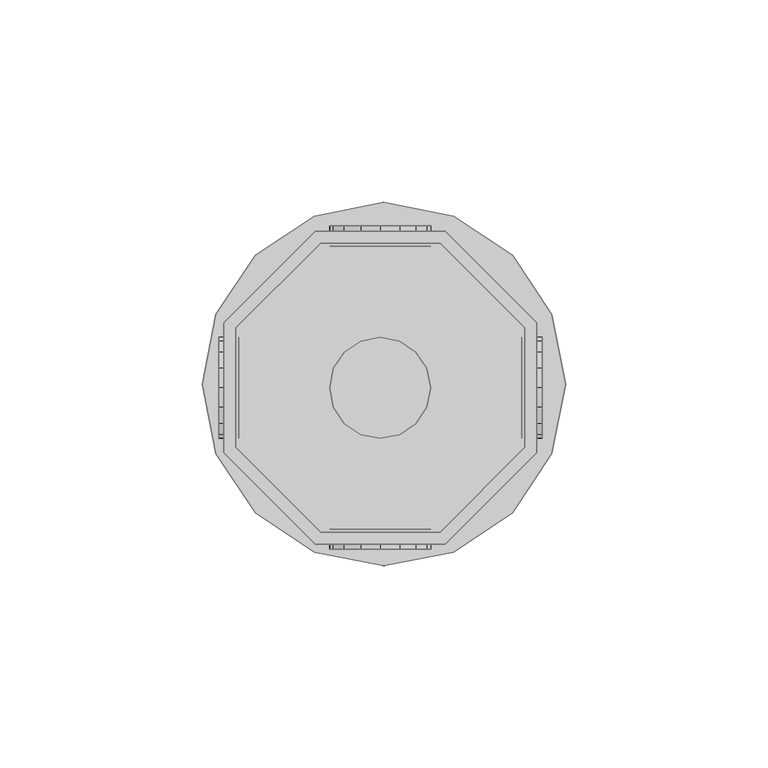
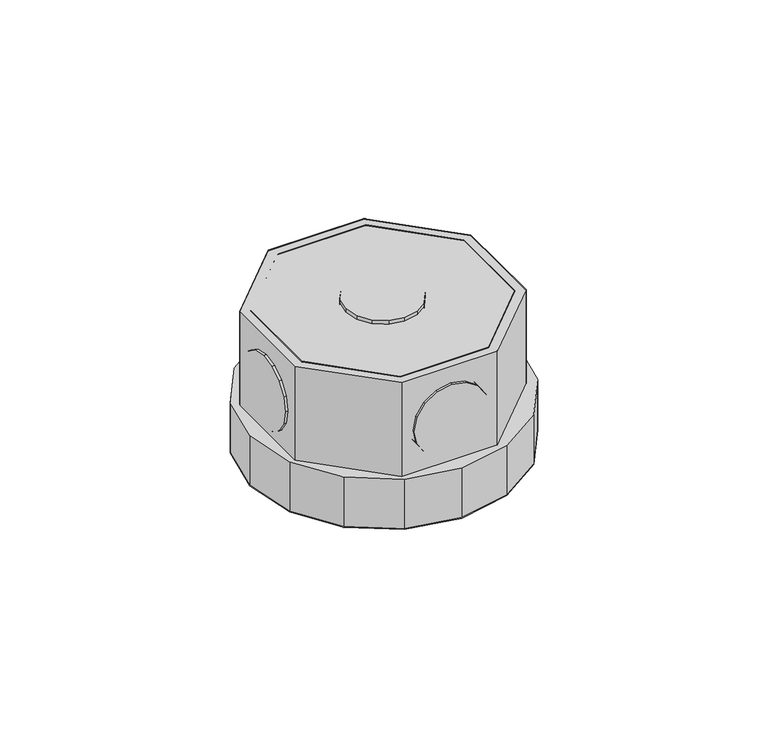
"""IFC4 building model written with IfcOpenShell, lengths in millimetres: light fixture geometry,  212394 :  212394."""

from ifc_helpers import new_model, si_unit, origin, place, context, project, spatial, triangles, source, transform, mapped, element, save


def light_fixture_c27ad947(model_context):
    return source(origin(), model_context, "Body", "Tessellation", [
        triangles([(13936.6004883, 10112.1002106, 2924.5999741), (13936.6004883, 10082.4996918, 2975.400071), (13936.6004883, 10082.4996918, 2924.5999741), (13936.6004883, 10112.1002106, 2975.400071), (14011.0994293, 10113.3001373, 2924.5999741), (14011.0994293, 10081.1997711, 2975.400071), (14011.0994293, 10081.1997711, 2924.5999741), (14011.0994293, 10113.3001373, 2975.400071), (13957.6003693, 10061.4998108, 2975.400071), (13957.6003693, 10061.4998108, 2924.5999741), (13988.3996521, 10135.9999146, 2924.5999741), (13988.3996521, 10135.9999146, 2975.400071), (13987.1997253, 10061.4998108, 2975.400071), (13987.1997253, 10061.4998108, 2924.5999741), (13956.3004486, 10135.9999146, 2924.5999741), (13956.3004486, 10135.9999146, 2975.400071), (14008.0996124, 10082.4996918, 2975.400071), (14008.0996124, 10082.4996918, 2924.5999741), (13933.5995087, 10113.3001373, 2924.5999741), (13933.5995087, 10113.3001373, 2975.400071), (14008.0996124, 10112.1002106, 2924.5999741), (14008.0996124, 10112.1002106, 2975.400071), (13933.5995087, 10081.1997711, 2975.400071), (13933.5995087, 10081.1997711, 2924.5999741), (13987.1997253, 10133.0000977, 2924.5999741), (13987.1997253, 10133.0000977, 2975.400071), (13956.3004486, 10058.4999939, 2975.400071), (13956.3004486, 10058.4999939, 2924.5999741), (13988.3996521, 10058.4999939, 2975.400071), (13957.6003693, 10133.0000977, 2975.400071), (13957.6003693, 10133.0000977, 2924.5999741), (13988.3996521, 10058.4999939, 2924.5999741), (13987.1997253, 10061.4998108, 2972.3999634), (14008.0996124, 10082.4996918, 2972.3999634), (14008.0996124, 10112.1002106, 2972.3999634), (13987.1997253, 10133.0000977, 2972.3999634), (13957.6003693, 10133.0000977, 2972.3999634), (13936.6004883, 10112.1002106, 2972.3999634), (13936.6004883, 10082.4996918, 2972.3999634), (13957.6003693, 10061.4998108, 2972.3999634), (13956.3004486, 10058.4999939, 2942.4000504), (13933.5995087, 10081.1997711, 2942.4000504), (13933.5995087, 10113.3001373, 2942.4000504), (13956.3004486, 10135.9999146, 2942.4000504), (13988.3996521, 10135.9999146, 2942.4000504), (14011.0994293, 10113.3001373, 2942.4000504), (14011.0994293, 10081.1997711, 2942.4000504), (13988.3996521, 10058.4999939, 2942.4000504), (14014.8003662, 10080.8997894, 2942.4000504), (13990.4995239, 10056.6001099, 2942.4000504), (14005.0997955, 10066.2995178, 2942.4000504), (13973.3005737, 10053.2003174, 2942.4000504), (13956.0004669, 10056.6001099, 2942.4000504), (13941.4001953, 10066.2995178, 2942.4000504), (13931.6996246, 10080.8997894, 2942.4000504), (13928.2998322, 10098.1998962, 2942.4000504), (13931.6996246, 10115.4000092, 2942.4000504), (13956.0004669, 10139.6996887, 2942.4000504), (13941.4001953, 10130.0002808, 2942.4000504), (14018.3001526, 10098.1998962, 2942.4000504), (14014.8003662, 10115.4000092, 2942.4000504), (14005.0997955, 10130.0002808, 2942.4000504), (13990.4995239, 10139.6996887, 2942.4000504), (13973.3005737, 10143.1994751, 2942.4000504), (13990.4995239, 10056.6001099, 2924.5999741), (14014.8003662, 10080.8997894, 2924.5999741), (14005.0997955, 10066.2995178, 2924.5999741), (13973.3005737, 10053.2003174, 2924.5999741), (13956.0004669, 10056.6001099, 2924.5999741), (13941.4001953, 10066.2995178, 2924.5999741), (13931.6996246, 10080.8997894, 2924.5999741), (13928.2998322, 10098.1998962, 2924.5999741), (13931.6996246, 10115.4000092, 2924.5999741), (13956.0004669, 10139.6996887, 2924.5999741), (13941.4001953, 10130.0002808, 2924.5999741), (14018.3001526, 10098.1998962, 2924.5999741), (14014.8003662, 10115.4000092, 2924.5999741), (14005.0997955, 10130.0002808, 2924.5999741), (13990.4995239, 10139.6996887, 2924.5999741), (13973.3005737, 10143.1994751, 2924.5999741), (13932.3995819, 10085.6994965, 2952.6000092), (13932.3995819, 10092.5002441, 2945.9001274), (13932.3995819, 10088.4004944, 2948.5999626), (13932.3995819, 10084.7995514, 2957.4000069), (13932.3995819, 10097.2999512, 2944.8998978), (13932.3995819, 10085.6994965, 2962.2000046), (13932.3995819, 10102.0996582, 2945.9001274), (13932.3995819, 10088.4004944, 2966.2000511), (13932.3995819, 10106.1005768, 2948.5999626), (13932.3995819, 10092.5002441, 2968.8998863), (13932.3995819, 10108.800412, 2952.6000092), (13932.3995819, 10097.2999512, 2969.900116), (13932.3995819, 10109.800351, 2957.4000069), (13932.3995819, 10102.0996582, 2968.8998863), (13932.3995819, 10108.800412, 2962.2000046), (13932.3995819, 10106.1005768, 2966.2000511), (13937.4004395, 10092.5002441, 2945.9001274), (13937.4004395, 10085.6994965, 2952.6000092), (13937.4004395, 10088.4004944, 2948.5999626), (13937.4004395, 10097.2999512, 2944.8998978), (13937.4004395, 10084.7995514, 2957.4000069), (13937.4004395, 10102.0996582, 2945.9001274), (13937.4004395, 10085.6994965, 2962.2000046), (13937.4004395, 10106.1005768, 2948.5999626), (13937.4004395, 10088.4004944, 2966.2000511), (13937.4004395, 10092.5002441, 2968.8998863), (13937.4004395, 10108.800412, 2952.6000092), (13937.4004395, 10097.2999512, 2969.900116), (13937.4004395, 10109.800351, 2957.4000069), (13937.4004395, 10102.0996582, 2968.8998863), (13937.4004395, 10108.800412, 2962.2000046), (13937.4004395, 10106.1005768, 2966.2000511), (14007.3996552, 10085.6994965, 2952.6000092), (14007.3996552, 10092.5002441, 2945.9001274), (14007.3996552, 10088.4004944, 2948.5999626), (14007.3996552, 10084.7995514, 2957.4000069), (14007.3996552, 10097.2999512, 2944.8998978), (14007.3996552, 10085.6994965, 2962.2000046), (14007.3996552, 10102.0996582, 2945.9001274), (14007.3996552, 10088.4004944, 2966.2000511), (14007.3996552, 10106.1005768, 2948.5999626), (14007.3996552, 10092.5002441, 2968.8998863), (14007.3996552, 10108.800412, 2952.6000092), (14007.3996552, 10097.2999512, 2969.900116), (14007.3996552, 10109.800351, 2957.4000069), (14007.3996552, 10102.0996582, 2968.8998863), (14007.3996552, 10108.800412, 2962.2000046), (14007.3996552, 10106.1005768, 2966.2000511), (14012.4005127, 10092.5002441, 2945.9001274), (14012.4005127, 10085.6994965, 2952.6000092), (14012.4005127, 10088.4004944, 2948.5999626), (14012.4005127, 10097.2999512, 2944.8998978), (14012.4005127, 10084.7995514, 2957.4000069), (14012.4005127, 10102.0996582, 2945.9001274), (14012.4005127, 10085.6994965, 2962.2000046), (14012.4005127, 10106.1005768, 2948.5999626), (14012.4005127, 10088.4004944, 2966.2000511), (14012.4005127, 10092.5002441, 2968.8998863), (14012.4005127, 10108.800412, 2952.6000092), (14012.4005127, 10097.2999512, 2969.900116), (14012.4005127, 10109.800351, 2957.4000069), (14012.4005127, 10102.0996582, 2968.8998863), (14012.4005127, 10108.800412, 2962.2000046), (14012.4005127, 10106.1005768, 2966.2000511), (13977.2003357, 10062.299762, 2945.9001274), (13983.8999268, 10062.299762, 2952.6000092), (13981.2000916, 10062.299762, 2948.5999626), (13972.3994659, 10062.299762, 2944.8998978), (13984.8998657, 10062.299762, 2957.4000069), (13967.5997589, 10062.299762, 2945.9001274), (13983.8999268, 10062.299762, 2962.2000046), (13963.5000092, 10062.299762, 2948.5999626), (13981.2000916, 10062.299762, 2966.2000511), (13977.2003357, 10062.299762, 2968.8998863), (13960.800174, 10062.299762, 2952.6000092), (13972.3994659, 10062.299762, 2969.900116), (13959.9002289, 10062.299762, 2957.4000069), (13967.5997589, 10062.299762, 2968.8998863), (13960.800174, 10062.299762, 2962.2000046), (13963.5000092, 10062.299762, 2966.2000511), (13983.8999268, 10057.3000671, 2952.6000092), (13977.2003357, 10057.3000671, 2945.9001274), (13981.2000916, 10057.3000671, 2948.5999626), (13984.8998657, 10057.3000671, 2957.4000069), (13972.3994659, 10057.3000671, 2944.8998978), (13983.8999268, 10057.3000671, 2962.2000046), (13967.5997589, 10057.3000671, 2945.9001274), (13981.2000916, 10057.3000671, 2966.2000511), (13963.5000092, 10057.3000671, 2948.5999626), (13977.2003357, 10057.3000671, 2968.8998863), (13960.800174, 10057.3000671, 2952.6000092), (13972.3994659, 10057.3000671, 2969.900116), (13959.9002289, 10057.3000671, 2957.4000069), (13967.5997589, 10057.3000671, 2968.8998863), (13960.800174, 10057.3000671, 2962.2000046), (13963.5000092, 10057.3000671, 2966.2000511), (13977.2003357, 10137.2998352, 2945.9001274), (13983.8999268, 10137.2998352, 2952.6000092), (13981.2000916, 10137.2998352, 2948.5999626), (13972.3994659, 10137.2998352, 2944.8998978), (13984.8998657, 10137.2998352, 2957.4000069), (13967.5997589, 10137.2998352, 2945.9001274), (13983.8999268, 10137.2998352, 2962.2000046), (13963.5000092, 10137.2998352, 2948.5999626), (13981.2000916, 10137.2998352, 2966.2000511), (13977.2003357, 10137.2998352, 2968.8998863), (13960.800174, 10137.2998352, 2952.6000092), (13972.3994659, 10137.2998352, 2969.900116), (13959.9002289, 10137.2998352, 2957.4000069), (13967.5997589, 10137.2998352, 2968.8998863), (13960.800174, 10137.2998352, 2962.2000046), (13963.5000092, 10137.2998352, 2966.2000511), (13983.8999268, 10132.3001404, 2952.6000092), (13977.2003357, 10132.3001404, 2945.9001274), (13981.2000916, 10132.3001404, 2948.5999626), (13984.8998657, 10132.3001404, 2957.4000069), (13972.3994659, 10132.3001404, 2944.8998978), (13983.8999268, 10132.3001404, 2962.2000046), (13967.5997589, 10132.3001404, 2945.9001274), (13981.2000916, 10132.3001404, 2966.2000511), (13963.5000092, 10132.3001404, 2948.5999626), (13977.2003357, 10132.3001404, 2968.8998863), (13960.800174, 10132.3001404, 2952.6000092), (13972.3994659, 10132.3001404, 2969.900116), (13959.9002289, 10132.3001404, 2957.4000069), (13967.5997589, 10132.3001404, 2968.8998863), (13960.800174, 10132.3001404, 2962.2000046), (13963.5000092, 10132.3001404, 2966.2000511), (13983.8999268, 10092.5002441, 2976.9999733), (13977.2003357, 10085.6994965, 2976.9999733), (13981.2000916, 10088.4004944, 2976.9999733), (13972.3994659, 10084.7995514, 2976.9999733), (13984.8998657, 10097.2999512, 2976.9999733), (13967.5997589, 10085.6994965, 2976.9999733), (13983.8999268, 10102.0996582, 2976.9999733), (13963.5000092, 10088.4004944, 2976.9999733), (13981.2000916, 10106.1005768, 2976.9999733), (13960.800174, 10092.5002441, 2976.9999733), (13977.2003357, 10108.800412, 2976.9999733), (13959.9002289, 10097.2999512, 2976.9999733), (13972.3994659, 10109.800351, 2976.9999733), (13960.800174, 10102.0996582, 2976.9999733), (13967.5997589, 10108.800412, 2976.9999733), (13963.5000092, 10106.1005768, 2976.9999733), (13977.2003357, 10085.6994965, 2971.9999878), (13983.8999268, 10092.5002441, 2971.9999878), (13981.2000916, 10088.4004944, 2971.9999878), (13972.3994659, 10084.7995514, 2971.9999878), (13984.8998657, 10097.2999512, 2971.9999878), (13967.5997589, 10085.6994965, 2971.9999878), (13983.8999268, 10102.0996582, 2971.9999878), (13963.5000092, 10088.4004944, 2971.9999878), (13981.2000916, 10106.1005768, 2971.9999878), (13960.800174, 10092.5002441, 2971.9999878), (13977.2003357, 10108.800412, 2971.9999878), (13959.9002289, 10097.2999512, 2971.9999878), (13972.3994659, 10109.800351, 2971.9999878), (13960.800174, 10102.0996582, 2971.9999878), (13967.5997589, 10108.800412, 2971.9999878), (13963.5000092, 10106.1005768, 2971.9999878)], [[1, 2, 3], [2, 1, 4], [5, 6, 7], [6, 5, 8], [3, 9, 10], [9, 3, 2], [11, 8, 5], [8, 11, 12], [10, 13, 14], [13, 10, 9], [15, 12, 11], [12, 15, 16], [14, 17, 18], [17, 14, 13], [19, 16, 15], [16, 19, 20], [17, 21, 18], [21, 17, 22], [23, 19, 24], [19, 23, 20], [22, 25, 21], [25, 22, 26], [27, 24, 28], [24, 27, 23], [6, 13, 29], [29, 13, 27], [27, 13, 9], [27, 9, 23], [23, 9, 2], [23, 2, 4], [23, 4, 20], [20, 4, 30], [8, 17, 6], [6, 17, 13], [17, 8, 22], [12, 22, 8], [22, 12, 26], [30, 26, 12], [16, 30, 12], [20, 30, 16], [30, 1, 31], [1, 30, 4], [6, 32, 7], [32, 6, 29], [32, 14, 7], [28, 14, 32], [14, 28, 10], [24, 10, 28], [10, 24, 3], [1, 3, 24], [19, 1, 24], [31, 1, 19], [7, 18, 5], [14, 18, 7], [5, 18, 21], [5, 21, 11], [11, 21, 25], [11, 25, 31], [11, 31, 15], [15, 31, 19], [26, 31, 25], [31, 26, 30], [29, 28, 32], [28, 29, 27], [17, 33, 34], [33, 17, 13], [35, 17, 34], [17, 35, 22], [36, 22, 35], [22, 36, 26], [37, 26, 36], [26, 37, 30], [38, 30, 37], [30, 38, 4], [2, 38, 39], [38, 2, 4], [17, 9, 13], [9, 17, 22], [9, 22, 2], [2, 22, 26], [2, 26, 4], [4, 26, 30], [13, 40, 33], [40, 13, 9], [40, 34, 33], [35, 34, 40], [35, 40, 39], [35, 39, 36], [36, 39, 38], [36, 38, 37], [9, 39, 40], [39, 9, 2], [24, 41, 28], [41, 24, 42], [19, 42, 24], [42, 19, 43], [44, 19, 15], [19, 44, 43], [45, 15, 11], [15, 45, 44], [46, 11, 5], [11, 46, 45], [47, 5, 7], [5, 47, 46], [32, 47, 7], [47, 32, 48], [28, 48, 32], [48, 28, 41], [49, 50, 51], [48, 50, 49], [50, 48, 52], [41, 52, 48], [52, 41, 53], [53, 41, 54], [42, 54, 41], [54, 42, 55], [55, 42, 43], [55, 43, 56], [56, 43, 57], [57, 43, 44], [57, 44, 58], [57, 58, 59], [47, 49, 60], [49, 47, 48], [47, 60, 46], [61, 46, 60], [46, 61, 62], [46, 62, 45], [45, 62, 63], [44, 45, 63], [44, 63, 64], [44, 64, 58], [65, 66, 67], [66, 65, 32], [68, 32, 65], [32, 68, 28], [28, 68, 69], [70, 28, 69], [28, 70, 24], [71, 24, 70], [19, 24, 71], [19, 71, 72], [73, 19, 72], [19, 73, 15], [74, 15, 73], [74, 73, 75], [76, 66, 7], [32, 7, 66], [5, 76, 7], [76, 5, 77], [77, 5, 78], [11, 78, 5], [78, 11, 79], [79, 11, 15], [79, 15, 80], [80, 15, 74], [57, 75, 73], [75, 57, 59], [56, 73, 72], [73, 56, 57], [55, 72, 71], [72, 55, 56], [54, 71, 70], [71, 54, 55], [53, 70, 69], [70, 53, 54], [52, 69, 68], [69, 52, 53], [50, 68, 65], [68, 50, 52], [51, 65, 67], [65, 51, 50], [66, 51, 67], [51, 66, 49], [76, 49, 66], [49, 76, 60], [77, 60, 76], [60, 77, 61], [78, 61, 77], [61, 78, 62], [79, 62, 78], [62, 79, 63], [80, 63, 79], [63, 80, 64], [75, 58, 74], [58, 75, 59], [74, 64, 80], [64, 74, 58], [81, 82, 83], [82, 81, 84], [85, 82, 84], [85, 84, 86], [87, 85, 86], [87, 86, 88], [87, 88, 89], [89, 88, 90], [89, 90, 91], [91, 90, 92], [91, 92, 93], [93, 92, 94], [93, 94, 95], [95, 94, 96], [97, 98, 99], [98, 97, 100], [101, 98, 100], [101, 100, 102], [103, 101, 102], [103, 102, 104], [103, 104, 105], [105, 104, 106], [106, 104, 107], [106, 107, 108], [108, 107, 109], [108, 109, 110], [110, 109, 111], [110, 111, 112], [87, 104, 102], [104, 87, 89], [85, 102, 100], [102, 85, 87], [82, 100, 97], [100, 82, 85], [83, 97, 99], [97, 83, 82], [98, 83, 99], [83, 98, 81], [101, 81, 98], [81, 101, 84], [103, 84, 101], [84, 103, 86], [105, 86, 103], [86, 105, 88], [106, 88, 105], [88, 106, 90], [108, 90, 106], [90, 108, 92], [110, 92, 108], [92, 110, 94], [112, 94, 110], [94, 112, 96], [95, 112, 111], [112, 95, 96], [93, 111, 109], [111, 93, 95], [89, 107, 104], [107, 89, 91], [91, 109, 107], [109, 91, 93], [113, 114, 115], [114, 113, 116], [117, 114, 116], [117, 116, 118], [119, 117, 118], [119, 118, 120], [119, 120, 121], [121, 120, 122], [121, 122, 123], [123, 122, 124], [123, 124, 125], [125, 124, 126], [125, 126, 127], [127, 126, 128], [129, 130, 131], [130, 129, 132], [133, 130, 132], [133, 132, 134], [135, 133, 134], [135, 134, 136], [135, 136, 137], [137, 136, 138], [138, 136, 139], [138, 139, 140], [140, 139, 141], [140, 141, 142], [142, 141, 143], [142, 143, 144], [119, 136, 134], [136, 119, 121], [117, 134, 132], [134, 117, 119], [114, 132, 129], [132, 114, 117], [115, 129, 131], [129, 115, 114], [130, 115, 131], [115, 130, 113], [133, 113, 130], [113, 133, 116], [135, 116, 133], [116, 135, 118], [137, 118, 135], [118, 137, 120], [138, 120, 137], [120, 138, 122], [140, 122, 138], [122, 140, 124], [142, 124, 140], [124, 142, 126], [144, 126, 142], [126, 144, 128], [127, 144, 143], [144, 127, 128], [125, 143, 141], [143, 125, 127], [121, 139, 136], [139, 121, 123], [123, 141, 139], [141, 123, 125], [145, 146, 147], [146, 145, 148], [149, 146, 148], [149, 148, 150], [151, 149, 150], [151, 150, 152], [151, 152, 153], [153, 152, 154], [154, 152, 155], [154, 155, 156], [156, 155, 157], [156, 157, 158], [158, 157, 159], [158, 159, 160], [161, 162, 163], [162, 161, 164], [165, 162, 164], [165, 164, 166], [167, 165, 166], [167, 166, 168], [169, 167, 168], [169, 168, 170], [169, 170, 171], [171, 170, 172], [171, 172, 173], [173, 172, 174], [173, 174, 175], [175, 174, 176], [158, 176, 174], [176, 158, 160], [156, 174, 172], [174, 156, 158], [154, 172, 170], [172, 154, 156], [153, 170, 168], [170, 153, 154], [151, 168, 166], [168, 151, 153], [149, 166, 164], [166, 149, 151], [146, 164, 161], [164, 146, 149], [147, 161, 163], [161, 147, 146], [162, 147, 163], [147, 162, 145], [165, 145, 162], [145, 165, 148], [167, 148, 165], [148, 167, 150], [169, 150, 167], [150, 169, 152], [171, 152, 169], [152, 171, 155], [173, 155, 171], [155, 173, 157], [176, 159, 175], [159, 176, 160], [175, 157, 173], [157, 175, 159], [177, 178, 179], [178, 177, 180], [181, 178, 180], [181, 180, 182], [183, 181, 182], [183, 182, 184], [183, 184, 185], [185, 184, 186], [186, 184, 187], [186, 187, 188], [188, 187, 189], [188, 189, 190], [190, 189, 191], [190, 191, 192], [193, 194, 195], [194, 193, 196], [197, 194, 196], [197, 196, 198], [199, 197, 198], [199, 198, 200], [201, 199, 200], [201, 200, 202], [201, 202, 203], [203, 202, 204], [203, 204, 205], [205, 204, 206], [205, 206, 207], [207, 206, 208], [190, 208, 206], [208, 190, 192], [188, 206, 204], [206, 188, 190], [186, 204, 202], [204, 186, 188], [185, 202, 200], [202, 185, 186], [183, 200, 198], [200, 183, 185], [181, 198, 196], [198, 181, 183], [178, 196, 193], [196, 178, 181], [179, 193, 195], [193, 179, 178], [194, 179, 195], [179, 194, 177], [197, 177, 194], [177, 197, 180], [199, 180, 197], [180, 199, 182], [201, 182, 199], [182, 201, 184], [203, 184, 201], [184, 203, 187], [205, 187, 203], [187, 205, 189], [208, 191, 207], [191, 208, 192], [207, 189, 205], [189, 207, 191], [209, 210, 211], [212, 210, 209], [212, 209, 213], [214, 212, 213], [214, 213, 215], [216, 214, 215], [216, 215, 217], [216, 217, 218], [218, 217, 219], [218, 219, 220], [220, 219, 221], [220, 221, 222], [222, 221, 223], [222, 223, 224], [225, 226, 227], [226, 225, 228], [229, 226, 228], [229, 228, 230], [231, 229, 230], [231, 230, 232], [231, 232, 233], [233, 232, 234], [233, 234, 235], [235, 234, 236], [235, 236, 237], [237, 236, 238], [237, 238, 239], [239, 238, 240], [222, 240, 238], [240, 222, 224], [220, 238, 236], [238, 220, 222], [218, 236, 234], [236, 218, 220], [216, 234, 232], [234, 216, 218], [214, 232, 230], [232, 214, 216], [212, 230, 228], [230, 212, 214], [210, 228, 225], [228, 210, 212], [211, 225, 227], [225, 211, 210], [226, 211, 227], [211, 226, 209], [229, 209, 226], [209, 229, 213], [231, 213, 229], [213, 231, 215], [233, 215, 231], [215, 233, 217], [235, 217, 233], [217, 235, 219], [237, 219, 235], [219, 237, 221], [240, 223, 239], [223, 240, 224], [239, 221, 237], [221, 239, 223]], closed=False),
    ])


if __name__ == "__main__":
    model = new_model("IFC4")
    model_context = context("Model", 3, world=origin())
    ifc_project = project(units=[si_unit("LENGTHUNIT", "METRE", prefix="MILLI")], contexts=[model_context])
    site = spatial("IfcSite", under=ifc_project)
    building = spatial("IfcBuilding", under=site)
    placement = place(None, origin())
    light_fixture_shape = light_fixture_c27ad947(model_context)
    element("IfcLightFixture", 1, ObjectType=" 212394 :  212394", at=placement, inside=building, context=model_context, shape_type="MappedRepresentation", body=[
        mapped(light_fixture_shape, transform((0.0, 0.0, 0.0), x_axis=(1.0, 0.0, 0.0), y_axis=(0.0, 1.0, 0.0), z_axis=(0.0, 0.0, 1.0))),
    ])
    save(model, "model.ifc")
